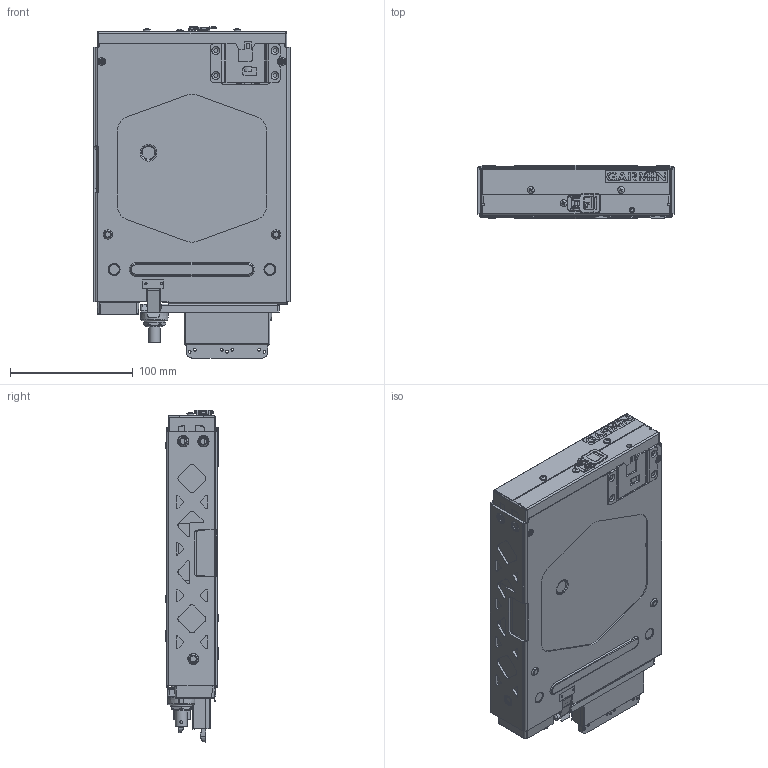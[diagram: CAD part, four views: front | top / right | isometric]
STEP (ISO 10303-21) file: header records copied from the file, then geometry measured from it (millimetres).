
FILE_DESCRIPTION (( 'STEP AP203' ), '1' );
FILE_NAME ('GTX345R_011-03303-00_R[115-01771-00]_B[011-02976-00]_C[011-02977-01]_rev3.STEP', '2016-04-28T21:16:41', ( 'Garmin' ), ( 'Garmin' ), 'SwSTEP 2.0', 'SolidWorks 2016', '' );
FILE_SCHEMA (( 'CONFIG_CONTROL_DESIGN' ));
Length unit declared in the file: inch
Products named in the file (1): GTX345R_011-03303-00_R[115-01771-00]_B[011-02976-00]_C[011-02977-01]_rev3
Bounding box: 160.02 x 43.81 x 270.62 mm (x, y, z)
Volume: 1422721 mm3; surface area: 253701.2 mm2
Topology: 5 solids, 42 shells, 3832 faces, 9629 edges, 6171 vertices
Faces by surface type: plane 1831, cylinder 829, bspline 738, cone 226, torus 174, sphere 34
Full cylindrical faces by diameter (mm): 0.762 x77, 1.397 x79, 1.52 x1, 1.778 x2, 2.032 x2, 2.184 x4, 2.261 x17, 2.286 x3, 2.54 x4, 2.845 x17, 2.98 x4, 3.1 x2, 3.251 x2, 3.277 x4, 3.454 x13, 3.488 x4, 4.15 x4, 4.216 x1, 4.394 x2, 4.572 x1, 4.699 x1, 4.7 x1, 5.429 x16, 5.563 x8, 5.588 x1, 5.844 x1, 7.29 x1, 7.62 x1, 8.255 x1, 8.325 x1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
Entity records: 139309 total; most frequent: CARTESIAN_POINT 55800, ORIENTED_EDGE 17890, DIRECTION 15070, EDGE_CURVE 8945, VERTEX_POINT 5992, AXIS2_PLACEMENT_3D 5311, EDGE_LOOP 4825, LINE 4448
